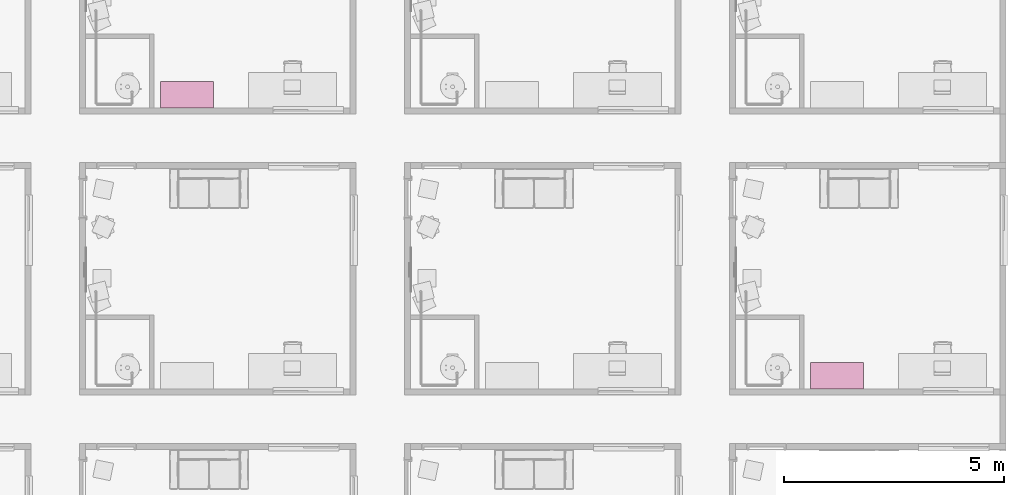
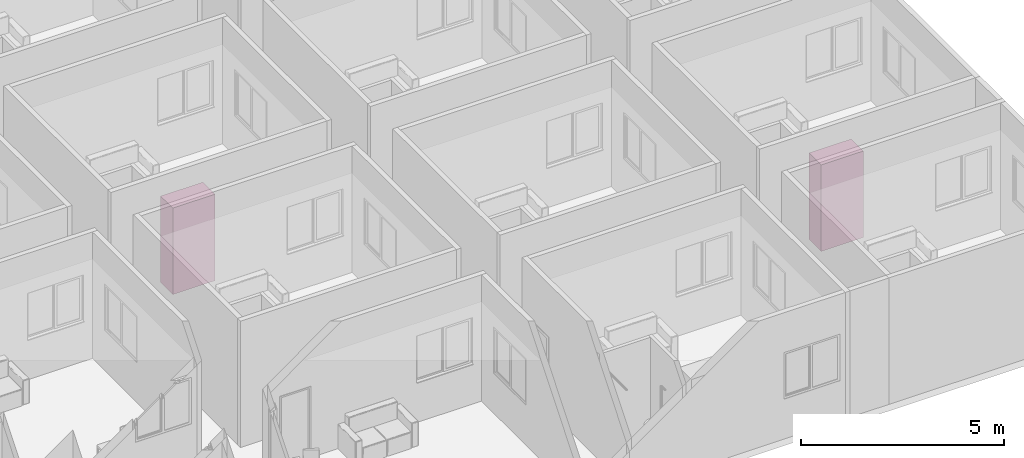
# One storey, part 65 of 69: 2 furniture elements.
"""IFC4 building model written with IfcOpenShell, lengths in centimetres."""

from ifc_helpers import new_model, entity, si_unit, converted_unit, derived_unit, direction, frame, origin, place, context, subcontext, project, spatial, indexed_curve, outline, extrude, source, transform, mapped, material, type_object, type_shapes, element, save


model = new_model("IFC4")

# Units and contexts
model_context = context("Model", 3, precision=0.001, world=origin(), true_north=direction((6.123233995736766e-17, 1.0)))
body_context = subcontext(model_context, "Body", "Model", "MODEL_VIEW")
ifc_project = project(units=[si_unit("LENGTHUNIT", "METRE", prefix="CENTI"), si_unit("AREAUNIT", "SQUARE_METRE"), si_unit("VOLUMEUNIT", "CUBIC_METRE"), derived_unit("THERMALTRANSMITTANCEUNIT", [(si_unit("MASSUNIT", "GRAM", prefix="KILO"), 1), (si_unit("THERMODYNAMICTEMPERATUREUNIT", "KELVIN"), -1), (si_unit("TIMEUNIT", "SECOND"), -3)]), converted_unit("PLANEANGLEUNIT", "DEGREE", entity("IfcPlaneAngleMeasure", 0.017453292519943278), si_unit("PLANEANGLEUNIT", "RADIAN"), dimensions=[0, 0, 0, 0, 0, 0, 0]), derived_unit("MASSDENSITYUNIT", [(si_unit("MASSUNIT", "GRAM", prefix="KILO"), 1), (si_unit("LENGTHUNIT", "METRE"), -3)]), derived_unit("VAPORPERMEABILITYUNIT", [(si_unit("LENGTHUNIT", "METRE"), -1), (si_unit("TIMEUNIT", "SECOND"), 1)]), derived_unit("USERDEFINED", [(si_unit("MASSUNIT", "GRAM", prefix="KILO"), 1), (si_unit("TIMEUNIT", "SECOND"), -3), (si_unit("LENGTHUNIT", "METRE"), 3), (si_unit("ELECTRICCURRENTUNIT", "AMPERE"), -2)]), derived_unit("SPECIFICHEATCAPACITYUNIT", [(si_unit("THERMODYNAMICTEMPERATUREUNIT", "KELVIN"), -1), (si_unit("LENGTHUNIT", "METRE"), 2), (si_unit("TIMEUNIT", "SECOND"), -2)]), derived_unit("THERMALCONDUCTANCEUNIT", [(si_unit("MASSUNIT", "GRAM", prefix="KILO"), 1), (si_unit("THERMODYNAMICTEMPERATUREUNIT", "KELVIN"), -1), (si_unit("TIMEUNIT", "SECOND"), -3), (si_unit("LENGTHUNIT", "METRE"), 1)]), si_unit("PRESSUREUNIT", "PASCAL"), derived_unit("MODULUSOFELASTICITYUNIT", [(si_unit("MASSUNIT", "GRAM", prefix="KILO"), 1), (si_unit("LENGTHUNIT", "METRE"), -1), (si_unit("TIMEUNIT", "SECOND"), -2)]), derived_unit("THERMALEXPANSIONCOEFFICIENTUNIT", [(si_unit("THERMODYNAMICTEMPERATUREUNIT", "KELVIN"), -1)])], contexts=[model_context])

# Site, building, storey, space
site_placement = place(None, origin())
site = spatial("IfcSite", under=ifc_project, at=site_placement, Name="Default", CompositionType="ELEMENT")
building_placement = place(site_placement, origin())
building = spatial("IfcBuilding", under=site, at=building_placement, Name="IDS Escape Game Building", CompositionType="ELEMENT")
storey_placement = place(building_placement, origin())
storey = spatial("IfcBuildingStorey", under=building, at=storey_placement, Name="00_Ground Floor", CompositionType="ELEMENT", Elevation=0.0)
space_1_placement = place(storey_placement, origin())
space_1 = spatial("IfcSpace", under=storey, at=space_1_placement, Name="14", CompositionType="ELEMENT", PredefinedType="NOTDEFINED")

# Furniture
ifc_material = material(Name="<Unnamed>")
furniture_type = type_object("IfcFurnitureType", Name="BPL_82.11_CA_UN_kast_gen_BERSnl:type 1", AssemblyPlace="NOTDEFINED", PredefinedType="NOTDEFINED", material=ifc_material)
shared_shape = source(origin(), body_context, "Body", "SweptSolid", [
    extrude(outline(indexed_curve([(-59.99999999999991, -29.999999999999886), (59.99999999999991, -29.999999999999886), (59.99999999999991, 29.999999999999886), (-59.99999999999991, 29.999999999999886), (-59.99999999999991, -29.999999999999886)], self_intersect=False)), frame((-60.0, -30.0, 0.0), z_axis=(0.0, 0.0, 1.0), x_axis=(-1.0, 0.0, 0.0)), (0.0, 0.0, 1.0), 260.0),
])
type_shapes(furniture_type, [shared_shape])
furniture_1_placement = place(space_1_placement, frame((4725.0, 711.0, 0.0)))
element("IfcFurniture", 1, at=furniture_1_placement, inside=space_1, type_object=furniture_type, material=ifc_material, Name="BPL_82.11_CA_UN_kast_gen_BERSnl:type 1", ObjectType="BPL_82.11_CA_UN_kast_gen_BERSnl:type 1", PredefinedType="NOTDEFINED", context=body_context, shape_type="MappedRepresentation", body=[
    mapped(shared_shape, transform((0.0, 0.0, 0.0), scale=1.0)),
])

# Space
space_2_placement = place(storey_placement, origin())
space_2 = spatial("IfcSpace", under=storey, at=space_2_placement, Name="19", CompositionType="ELEMENT", PredefinedType="NOTDEFINED")

# Furniture
furniture_2_placement = place(space_2_placement, frame((3249.0, 1349.0, 0.0)))
element("IfcFurniture", 2, at=furniture_2_placement, inside=space_2, type_object=furniture_type, material=ifc_material, Name="BPL_82.11_CA_UN_kast_gen_BERSnl:type 1", ObjectType="BPL_82.11_CA_UN_kast_gen_BERSnl:type 1", PredefinedType="NOTDEFINED", context=body_context, shape_type="MappedRepresentation", body=[
    mapped(shared_shape, transform((0.0, 0.0, 0.0), scale=1.0)),
])

save(model, "model.ifc")
